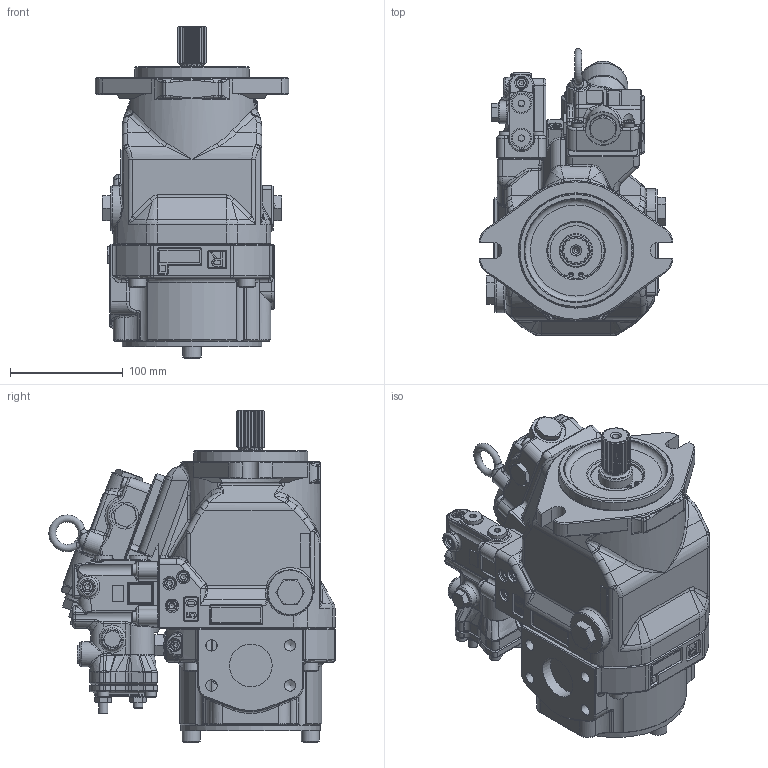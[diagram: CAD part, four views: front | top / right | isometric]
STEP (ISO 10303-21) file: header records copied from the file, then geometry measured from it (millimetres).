
FILE_DESCRIPTION(/* description */ (''),/* implementation_level */ '2;1');
FILE_NAME(/* name */ 'K3VLS50-1NLBBH-L1AAM2.stp',/* time_stamp */ '2025-09-25T09:32:19+01:00',/* author */ ('jhatcher'),/* organization */ (''),/* preprocessor_version */ 'ST-DEVELOPER v20',/* originating_system */ 'Autodesk Inventor 2024',/* authorisation */ '');
FILE_SCHEMA (('AUTOMOTIVE_DESIGN { 1 0 10303 214 3 1 1 }'));
Products named in the file (1): K3VLS50-1NLBBH-L1AAM2
Bounding box: 172 x 254.42 x 295 mm (x, y, z)
Volume: 4705721.8 mm3; surface area: 256139.8 mm2
Topology: 1 solids, 1 shells, 3453 faces, 8765 edges, 5366 vertices
Faces by surface type: plane 1374, cylinder 833, bspline 638, cone 410, torus 182, sphere 16
Full cylindrical faces by diameter (mm): 2.5 x2, 3.15 x1, 4 x3, 8 x3, 8.376 x8, 9.4 x11, 10 x12, 10.106 x4, 11 x12, 12 x11, 16 x9, 17.5 x4, 18 x4, 20 x1, 21 x1, 22 x1, 24 x2, 25 x2, 30 x1, 33 x1, 35 x1, 38 x1, 50 x1, 53 x1, 101.6 x1, 124 x1
Entity records: 122791 total; most frequent: CARTESIAN_POINT 44147, ORIENTED_EDGE 17282, DIRECTION 15109, EDGE_CURVE 8641, AXIS2_PLACEMENT_3D 5527, VERTEX_POINT 5366, LINE 4055, VECTOR 4055
